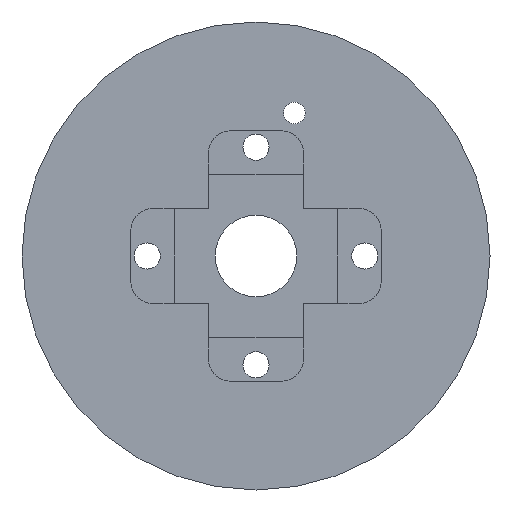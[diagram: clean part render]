
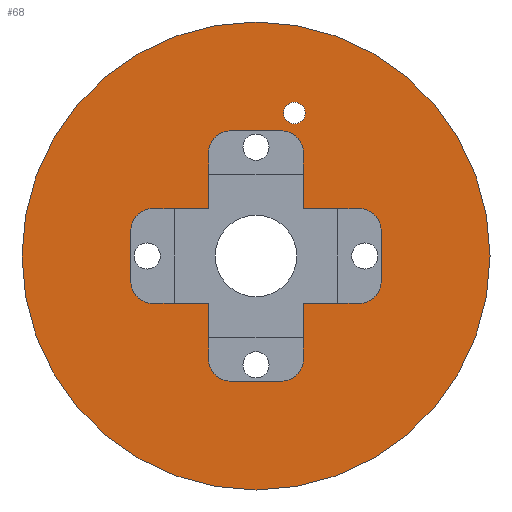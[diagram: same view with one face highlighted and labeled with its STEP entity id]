
A CAD part, left-side view. The second image highlights one B-rep face of the part: STEP entity #68.
In plain terms, the highlighted planar face has unit normal (-1, 0, 0).
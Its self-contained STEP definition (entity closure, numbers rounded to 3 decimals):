
#31=FACE_BOUND('',#182,.F.);
#32=FACE_BOUND('',#183,.F.);
#44=PLANE('',#1133);
#68=ADVANCED_FACE('',(#31,#32,#125),#44,.T.);
#125=FACE_OUTER_BOUND('',#184,.F.);
#182=EDGE_LOOP('',(#255,#256));
#183=EDGE_LOOP('',(#257,#258,#259,#260,#261,#262,#263,#264,#265,#266,#267,#268,
#269,#270,#271,#272,#273,#274,#275,#276,#277,#278,#279,#280,#281,#282,#283,
#284));
#184=EDGE_LOOP('',(#285,#286));
#255=ORIENTED_EDGE('',*,*,#804,.T.);
#256=ORIENTED_EDGE('',*,*,#803,.T.);
#257=ORIENTED_EDGE('',*,*,#886,.T.);
#258=ORIENTED_EDGE('',*,*,#770,.T.);
#259=ORIENTED_EDGE('',*,*,#769,.T.);
#260=ORIENTED_EDGE('',*,*,#764,.T.);
#261=ORIENTED_EDGE('',*,*,#774,.T.);
#262=ORIENTED_EDGE('',*,*,#885,.T.);
#263=ORIENTED_EDGE('',*,*,#776,.T.);
#264=ORIENTED_EDGE('',*,*,#884,.T.);
#265=ORIENTED_EDGE('',*,*,#762,.T.);
#266=ORIENTED_EDGE('',*,*,#761,.T.);
#267=ORIENTED_EDGE('',*,*,#765,.T.);
#268=ORIENTED_EDGE('',*,*,#778,.T.);
#269=ORIENTED_EDGE('',*,*,#883,.T.);
#270=ORIENTED_EDGE('',*,*,#780,.T.);
#271=ORIENTED_EDGE('',*,*,#882,.T.);
#272=ORIENTED_EDGE('',*,*,#768,.T.);
#273=ORIENTED_EDGE('',*,*,#767,.T.);
#274=ORIENTED_EDGE('',*,*,#763,.T.);
#275=ORIENTED_EDGE('',*,*,#786,.T.);
#276=ORIENTED_EDGE('',*,*,#879,.T.);
#277=ORIENTED_EDGE('',*,*,#784,.T.);
#278=ORIENTED_EDGE('',*,*,#880,.T.);
#279=ORIENTED_EDGE('',*,*,#760,.T.);
#280=ORIENTED_EDGE('',*,*,#759,.T.);
#281=ORIENTED_EDGE('',*,*,#766,.T.);
#282=ORIENTED_EDGE('',*,*,#782,.T.);
#283=ORIENTED_EDGE('',*,*,#881,.T.);
#284=ORIENTED_EDGE('',*,*,#772,.T.);
#285=ORIENTED_EDGE('',*,*,#816,.F.);
#286=ORIENTED_EDGE('',*,*,#813,.F.);
#585=LINE('',#1627,#671);
#586=LINE('',#1628,#672);
#587=LINE('',#1629,#673);
#588=LINE('',#1630,#674);
#589=LINE('',#1631,#675);
#590=LINE('',#1632,#676);
#591=LINE('',#1633,#677);
#592=LINE('',#1634,#678);
#593=LINE('',#1635,#679);
#594=LINE('',#1636,#680);
#595=LINE('',#1637,#681);
#596=LINE('',#1638,#682);
#597=LINE('',#1640,#683);
#598=LINE('',#1642,#684);
#599=LINE('',#1644,#685);
#600=LINE('',#1646,#686);
#601=LINE('',#1648,#687);
#602=LINE('',#1650,#688);
#603=LINE('',#1652,#689);
#604=LINE('',#1654,#690);
#671=VECTOR('',#1211,3.15);
#672=VECTOR('',#1212,2.);
#673=VECTOR('',#1213,3.15);
#674=VECTOR('',#1214,2.);
#675=VECTOR('',#1215,3.15);
#676=VECTOR('',#1216,3.15);
#677=VECTOR('',#1217,3.15);
#678=VECTOR('',#1218,3.15);
#679=VECTOR('',#1219,3.15);
#680=VECTOR('',#1220,2.);
#681=VECTOR('',#1221,3.15);
#682=VECTOR('',#1222,2.);
#683=VECTOR('',#1225,4.7);
#684=VECTOR('',#1228,2.);
#685=VECTOR('',#1231,4.7);
#686=VECTOR('',#1234,2.);
#687=VECTOR('',#1237,4.7);
#688=VECTOR('',#1240,2.);
#689=VECTOR('',#1243,4.7);
#690=VECTOR('',#1246,2.);
#759=EDGE_CURVE('',#1039,#1024,#585,.T.);
#760=EDGE_CURVE('',#1023,#1039,#586,.T.);
#761=EDGE_CURVE('',#1037,#1022,#587,.T.);
#762=EDGE_CURVE('',#1021,#1037,#588,.T.);
#763=EDGE_CURVE('',#1020,#1034,#589,.T.);
#764=EDGE_CURVE('',#1019,#1033,#590,.T.);
#765=EDGE_CURVE('',#1022,#1032,#591,.T.);
#766=EDGE_CURVE('',#1024,#1030,#592,.T.);
#767=EDGE_CURVE('',#1026,#1020,#593,.T.);
#768=EDGE_CURVE('',#1018,#1026,#594,.T.);
#769=EDGE_CURVE('',#1025,#1019,#595,.T.);
#770=EDGE_CURVE('',#1017,#1025,#596,.T.);
#772=EDGE_CURVE('',#1014,#1013,#597,.T.);
#774=EDGE_CURVE('',#1033,#1010,#598,.T.);
#776=EDGE_CURVE('',#1007,#1006,#599,.T.);
#778=EDGE_CURVE('',#1032,#1003,#600,.T.);
#780=EDGE_CURVE('',#1000,#999,#601,.T.);
#782=EDGE_CURVE('',#1030,#996,#602,.T.);
#784=EDGE_CURVE('',#993,#992,#603,.T.);
#786=EDGE_CURVE('',#1034,#989,#604,.T.);
#803=EDGE_CURVE('',#972,#971,#917,.T.);
#804=EDGE_CURVE('',#971,#972,#918,.T.);
#813=EDGE_CURVE('',#962,#961,#927,.T.);
#816=EDGE_CURVE('',#961,#962,#928,.T.);
#879=EDGE_CURVE('',#989,#993,#943,.T.);
#880=EDGE_CURVE('',#992,#1023,#944,.T.);
#881=EDGE_CURVE('',#996,#1014,#945,.T.);
#882=EDGE_CURVE('',#999,#1018,#946,.T.);
#883=EDGE_CURVE('',#1003,#1000,#947,.T.);
#884=EDGE_CURVE('',#1006,#1021,#948,.T.);
#885=EDGE_CURVE('',#1010,#1007,#949,.T.);
#886=EDGE_CURVE('',#1013,#1017,#950,.T.);
#917=CIRCLE('',#1098,1.);
#918=CIRCLE('',#1099,1.);
#927=CIRCLE('',#1108,21.5);
#928=CIRCLE('',#1109,21.5);
#943=CIRCLE('',#1124,2.);
#944=CIRCLE('',#1125,2.);
#945=CIRCLE('',#1126,2.);
#946=CIRCLE('',#1127,2.);
#947=CIRCLE('',#1128,2.);
#948=CIRCLE('',#1129,2.);
#949=CIRCLE('',#1130,2.);
#950=CIRCLE('',#1131,2.);
#961=VERTEX_POINT('',#1531);
#962=VERTEX_POINT('',#1532);
#971=VERTEX_POINT('',#1541);
#972=VERTEX_POINT('',#1542);
#989=VERTEX_POINT('',#1559);
#992=VERTEX_POINT('',#1562);
#993=VERTEX_POINT('',#1563);
#996=VERTEX_POINT('',#1566);
#999=VERTEX_POINT('',#1569);
#1000=VERTEX_POINT('',#1570);
#1003=VERTEX_POINT('',#1573);
#1006=VERTEX_POINT('',#1576);
#1007=VERTEX_POINT('',#1577);
#1010=VERTEX_POINT('',#1580);
#1013=VERTEX_POINT('',#1583);
#1014=VERTEX_POINT('',#1584);
#1017=VERTEX_POINT('',#1587);
#1018=VERTEX_POINT('',#1588);
#1019=VERTEX_POINT('',#1589);
#1020=VERTEX_POINT('',#1590);
#1021=VERTEX_POINT('',#1591);
#1022=VERTEX_POINT('',#1592);
#1023=VERTEX_POINT('',#1593);
#1024=VERTEX_POINT('',#1594);
#1025=VERTEX_POINT('',#1595);
#1026=VERTEX_POINT('',#1596);
#1030=VERTEX_POINT('',#1600);
#1032=VERTEX_POINT('',#1602);
#1033=VERTEX_POINT('',#1603);
#1034=VERTEX_POINT('',#1604);
#1037=VERTEX_POINT('',#1607);
#1039=VERTEX_POINT('',#1609);
#1098=AXIS2_PLACEMENT_3D('',#1671,#1279,#1280);
#1099=AXIS2_PLACEMENT_3D('',#1672,#1281,#1282);
#1108=AXIS2_PLACEMENT_3D('',#1681,#1299,#1300);
#1109=AXIS2_PLACEMENT_3D('',#1684,#1303,#1304);
#1124=AXIS2_PLACEMENT_3D('',#1747,#1381,#1382);
#1125=AXIS2_PLACEMENT_3D('',#1748,#1383,#1384);
#1126=AXIS2_PLACEMENT_3D('',#1749,#1385,#1386);
#1127=AXIS2_PLACEMENT_3D('',#1750,#1387,#1388);
#1128=AXIS2_PLACEMENT_3D('',#1751,#1389,#1390);
#1129=AXIS2_PLACEMENT_3D('',#1752,#1391,#1392);
#1130=AXIS2_PLACEMENT_3D('',#1753,#1393,#1394);
#1131=AXIS2_PLACEMENT_3D('',#1754,#1395,#1396);
#1133=AXIS2_PLACEMENT_3D('',#1760,#1403,#1404);
#1211=DIRECTION('',(0.,0.,-1.));
#1212=DIRECTION('',(0.,0.,-1.));
#1213=DIRECTION('',(0.,0.,1.));
#1214=DIRECTION('',(0.,0.,1.));
#1215=DIRECTION('',(0.,0.,1.));
#1216=DIRECTION('',(0.,0.,-1.));
#1217=DIRECTION('',(0.,-1.,0.));
#1218=DIRECTION('',(0.,1.,0.));
#1219=DIRECTION('',(0.,1.,0.));
#1220=DIRECTION('',(0.,1.,0.));
#1221=DIRECTION('',(0.,-1.,0.));
#1222=DIRECTION('',(0.,-1.,0.));
#1225=DIRECTION('',(0.,0.,-1.));
#1228=DIRECTION('',(0.,0.,-1.));
#1231=DIRECTION('',(0.,-1.,0.));
#1234=DIRECTION('',(0.,-1.,0.));
#1237=DIRECTION('',(0.,0.,1.));
#1240=DIRECTION('',(0.,1.,0.));
#1243=DIRECTION('',(0.,1.,0.));
#1246=DIRECTION('',(0.,0.,1.));
#1279=DIRECTION('',(-1.,0.,0.));
#1280=DIRECTION('',(0.,0.259,-0.966));
#1281=DIRECTION('',(-1.,0.,0.));
#1282=DIRECTION('',(0.,-0.259,0.966));
#1299=DIRECTION('',(-1.,0.,0.));
#1300=DIRECTION('',(0.,0.,-1.));
#1303=DIRECTION('',(-1.,0.,0.));
#1304=DIRECTION('',(0.,0.,1.));
#1381=DIRECTION('',(-1.,0.,0.));
#1382=DIRECTION('',(0.,-1.,0.));
#1383=DIRECTION('',(-1.,0.,0.));
#1384=DIRECTION('',(0.,0.,1.));
#1385=DIRECTION('',(-1.,0.,0.));
#1386=DIRECTION('',(0.,0.,1.));
#1387=DIRECTION('',(-1.,0.,0.));
#1388=DIRECTION('',(0.,-1.,0.));
#1389=DIRECTION('',(-1.,0.,0.));
#1390=DIRECTION('',(0.,0.,-1.));
#1391=DIRECTION('',(-1.,0.,0.));
#1392=DIRECTION('',(0.,0.,-1.));
#1393=DIRECTION('',(-1.,0.,0.));
#1394=DIRECTION('',(0.,1.,0.));
#1395=DIRECTION('',(-1.,0.,0.));
#1396=DIRECTION('',(0.,1.,0.));
#1403=DIRECTION('',(-1.,0.,0.));
#1404=DIRECTION('',(0.,1.,0.));
#1531=CARTESIAN_POINT('',(-2.,-47.,21.5));
#1532=CARTESIAN_POINT('',(-2.,-47.,-21.5));
#1541=CARTESIAN_POINT('',(-2.,-50.779,14.103));
#1542=CARTESIAN_POINT('',(-2.,-50.261,12.171));
#1559=CARTESIAN_POINT('',(-2.,-51.35,9.5));
#1562=CARTESIAN_POINT('',(-2.,-44.65,11.5));
#1563=CARTESIAN_POINT('',(-2.,-49.35,11.5));
#1566=CARTESIAN_POINT('',(-2.,-37.5,4.35));
#1569=CARTESIAN_POINT('',(-2.,-58.5,2.35));
#1570=CARTESIAN_POINT('',(-2.,-58.5,-2.35));
#1573=CARTESIAN_POINT('',(-2.,-56.5,-4.35));
#1576=CARTESIAN_POINT('',(-2.,-49.35,-11.5));
#1577=CARTESIAN_POINT('',(-2.,-44.65,-11.5));
#1580=CARTESIAN_POINT('',(-2.,-42.65,-9.5));
#1583=CARTESIAN_POINT('',(-2.,-35.5,-2.35));
#1584=CARTESIAN_POINT('',(-2.,-35.5,2.35));
#1587=CARTESIAN_POINT('',(-2.,-37.5,-4.35));
#1588=CARTESIAN_POINT('',(-2.,-56.5,4.35));
#1589=CARTESIAN_POINT('',(-2.,-42.65,-4.35));
#1590=CARTESIAN_POINT('',(-2.,-51.35,4.35));
#1591=CARTESIAN_POINT('',(-2.,-51.35,-9.5));
#1592=CARTESIAN_POINT('',(-2.,-51.35,-4.35));
#1593=CARTESIAN_POINT('',(-2.,-42.65,9.5));
#1594=CARTESIAN_POINT('',(-2.,-42.65,4.35));
#1595=CARTESIAN_POINT('',(-2.,-39.5,-4.35));
#1596=CARTESIAN_POINT('',(-2.,-54.5,4.35));
#1600=CARTESIAN_POINT('',(-2.,-39.5,4.35));
#1602=CARTESIAN_POINT('',(-2.,-54.5,-4.35));
#1603=CARTESIAN_POINT('',(-2.,-42.65,-7.5));
#1604=CARTESIAN_POINT('',(-2.,-51.35,7.5));
#1607=CARTESIAN_POINT('',(-2.,-51.35,-7.5));
#1609=CARTESIAN_POINT('',(-2.,-42.65,7.5));
#1627=CARTESIAN_POINT('',(-2.,-42.65,7.5));
#1628=CARTESIAN_POINT('',(-2.,-42.65,9.5));
#1629=CARTESIAN_POINT('',(-2.,-51.35,-7.5));
#1630=CARTESIAN_POINT('',(-2.,-51.35,-9.5));
#1631=CARTESIAN_POINT('',(-2.,-51.35,4.35));
#1632=CARTESIAN_POINT('',(-2.,-42.65,-4.35));
#1633=CARTESIAN_POINT('',(-2.,-51.35,-4.35));
#1634=CARTESIAN_POINT('',(-2.,-42.65,4.35));
#1635=CARTESIAN_POINT('',(-2.,-54.5,4.35));
#1636=CARTESIAN_POINT('',(-2.,-56.5,4.35));
#1637=CARTESIAN_POINT('',(-2.,-39.5,-4.35));
#1638=CARTESIAN_POINT('',(-2.,-37.5,-4.35));
#1640=CARTESIAN_POINT('',(-2.,-35.5,2.35));
#1642=CARTESIAN_POINT('',(-2.,-42.65,-7.5));
#1644=CARTESIAN_POINT('',(-2.,-44.65,-11.5));
#1646=CARTESIAN_POINT('',(-2.,-54.5,-4.35));
#1648=CARTESIAN_POINT('',(-2.,-58.5,-2.35));
#1650=CARTESIAN_POINT('',(-2.,-39.5,4.35));
#1652=CARTESIAN_POINT('',(-2.,-49.35,11.5));
#1654=CARTESIAN_POINT('',(-2.,-51.35,7.5));
#1671=CARTESIAN_POINT('',(-2.,-50.52,13.137));
#1672=CARTESIAN_POINT('',(-2.,-50.52,13.137));
#1681=CARTESIAN_POINT('',(-2.,-47.,0.));
#1684=CARTESIAN_POINT('',(-2.,-47.,0.));
#1747=CARTESIAN_POINT('',(-2.,-49.35,9.5));
#1748=CARTESIAN_POINT('',(-2.,-44.65,9.5));
#1749=CARTESIAN_POINT('',(-2.,-37.5,2.35));
#1750=CARTESIAN_POINT('',(-2.,-56.5,2.35));
#1751=CARTESIAN_POINT('',(-2.,-56.5,-2.35));
#1752=CARTESIAN_POINT('',(-2.,-49.35,-9.5));
#1753=CARTESIAN_POINT('',(-2.,-44.65,-9.5));
#1754=CARTESIAN_POINT('',(-2.,-37.5,-2.35));
#1760=CARTESIAN_POINT('',(-2.,-68.93,21.93));
